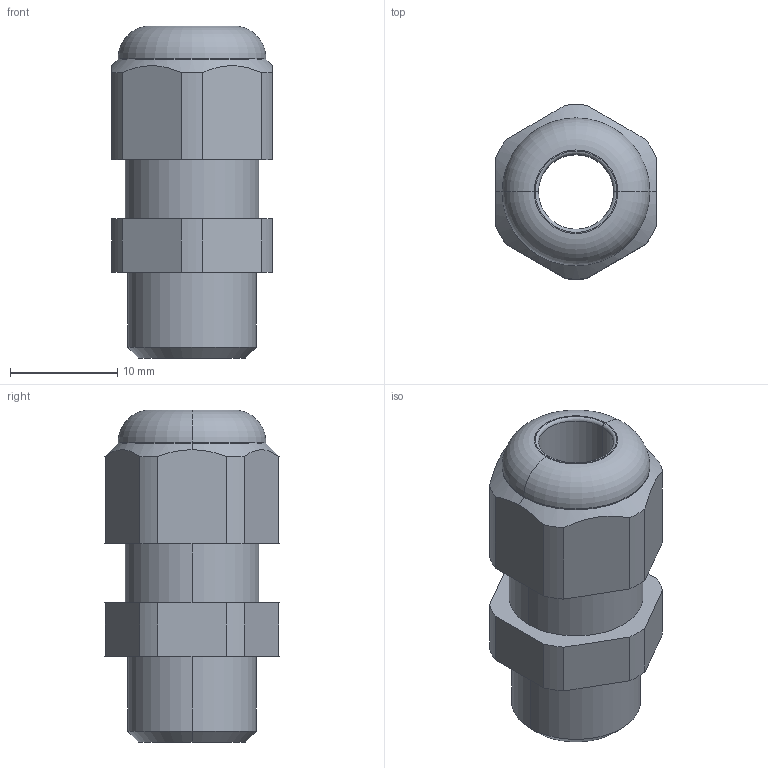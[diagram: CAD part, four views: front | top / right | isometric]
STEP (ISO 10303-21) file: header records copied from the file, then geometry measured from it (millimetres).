
FILE_DESCRIPTION (( 'STEP AP203' ), '1' );
FILE_NAME ('50.612 PASW-EX.STEP', '2006-10-09T09:43:21', ( ' ' ), ( '' ), 'SwSTEP 2.0', 'SolidWorks 2005278', '' );
FILE_SCHEMA (( 'CONFIG_CONTROL_DESIGN' ));
Length unit declared in the file: millimetre
Products named in the file (1): 50.612 PASW-EX
Bounding box: 15 x 16.29 x 31 mm (x, y, z)
Volume: 3498.7 mm3; surface area: 2390.2 mm2
Topology: 1 solids, 1 shells, 82 faces, 214 edges, 140 vertices
Faces by surface type: plane 54, cylinder 20, cone 4, torus 4
Entity records: 2637 total; most frequent: CARTESIAN_POINT 505, ORIENTED_EDGE 428, DIRECTION 422, EDGE_CURVE 214, LINE 156, VECTOR 156, VERTEX_POINT 140, AXIS2_PLACEMENT_3D 133
